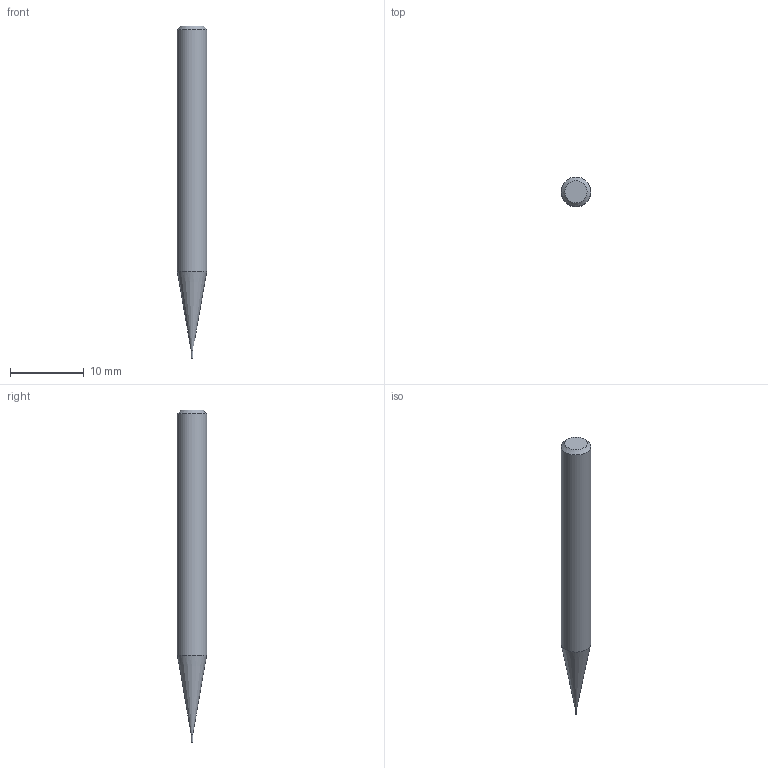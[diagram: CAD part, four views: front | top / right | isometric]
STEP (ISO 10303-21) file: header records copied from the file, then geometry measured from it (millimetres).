
FILE_DESCRIPTION((''),'2;1');
FILE_NAME('C:\Users\nsx150\Desktop\RSE230_20210427\01-00644-00201 RSE230 D0_2X1.step','2021-05-07T14:52:22',(''),(''),'STEP Write','Mastercam 2021 ... CNC Software, Inc.','');
FILE_SCHEMA(('AUTOMOTIVE_DESIGN'));
Length unit declared in the file: millimetre
Products named in the file (1): None
Bounding box: 4 x 4 x 45 mm (x, y, z)
Volume: 463.6 mm3; surface area: 499 mm2
Topology: 2 solids, 2 shells, 8 faces, 10 edges, 6 vertices
Faces by surface type: plane 4, cylinder 2, cone 2
Full cylindrical faces by diameter (mm): 0.2 x1, 4 x1
Entity records: 190 total; most frequent: DIRECTION 32, CARTESIAN_POINT 22, AXIS2_PLACEMENT_3D 16, ORIENTED_EDGE 12, EDGE_LOOP 12, STYLED_ITEM 11, ADVANCED_FACE 8, VERTEX_POINT 6
